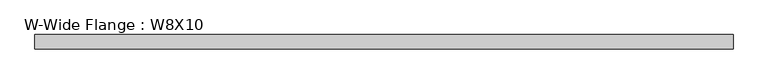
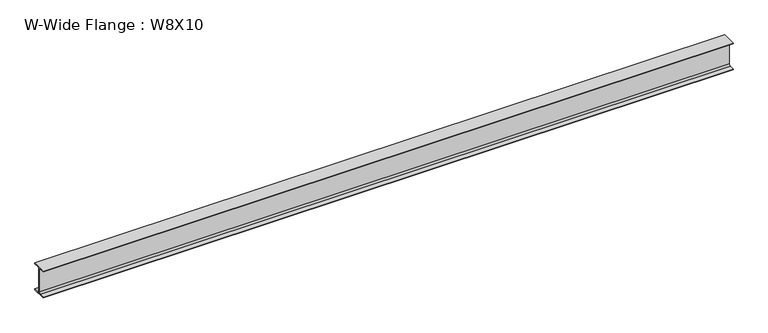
"""IFC4 building model written with IfcOpenShell, lengths in millimetres: beam geometry, W-Wide Flange : W8X10."""

from ifc_helpers import new_model, si_unit, point, frame, frame_2d, origin, place, context, project, spatial, polyline, circle_curve, trimmed, segment, composite_curve, outline, extrude, source, transform, mapped, element, save


def w_wide_flange_w8x10_729b3ca8(model_context):
    return source(origin(), model_context, "Body", "SweptSolid", [
        extrude(outline(composite_curve([segment(polyline([(50.038, -94.996), (50.038, -100.203), (-50.038, -100.203), (-50.038, -94.996), (-14.4145, -94.996)]), True, "CONTINUOUS"), segment(trimmed(circle_curve(frame_2d((-14.4145, -82.7405)), 12.2555), [point((-14.4145, -94.996))], [point((-2.159, -82.7405))], True, "CARTESIAN"), True, "CONTINUOUS"), segment(polyline([(-2.159, -82.7405), (-2.159, 82.7405)]), True, "CONTINUOUS"), segment(trimmed(circle_curve(frame_2d((-14.4145, 82.7405)), 12.2555), [point((-2.159, 82.7405))], [point((-14.4145, 94.996))], True, "CARTESIAN"), True, "CONTINUOUS"), segment(polyline([(-14.4145, 94.996), (-50.038, 94.996), (-50.038, 100.203), (50.038, 100.203), (50.038, 94.996), (14.4145, 94.996)]), True, "CONTINUOUS"), segment(trimmed(circle_curve(frame_2d((14.4145, 82.7405)), 12.2555), [point((14.4145, 94.996))], [point((2.159, 82.7405))], True, "CARTESIAN"), True, "CONTINUOUS"), segment(polyline([(2.159, 82.7405), (2.159, -82.7405)]), True, "CONTINUOUS"), segment(trimmed(circle_curve(frame_2d((14.4145, -82.7405)), 12.2555), [point((2.159, -82.7405))], [point((14.4145, -94.996))], True, "CARTESIAN"), True, "CONTINUOUS"), segment(polyline([(14.4145, -94.996), (50.038, -94.996)]), True, "CONTINUOUS")], self_intersect=False)), frame((-2389.1378906, 0.0, 0.0), z_axis=(1.0, 0.0, 0.0), x_axis=(0.0, 1.0, 0.0)), (0.0, 0.0, 1.0), 4892.6253906),
    ])


if __name__ == "__main__":
    model = new_model("IFC4")
    model_context = context("Model", 3, world=origin())
    ifc_project = project(units=[si_unit("LENGTHUNIT", "METRE", prefix="MILLI")], contexts=[model_context])
    site = spatial("IfcSite", under=ifc_project)
    building = spatial("IfcBuilding", under=site)
    placement = place(None, origin())
    w_wide_flange_w8x10_shape = w_wide_flange_w8x10_729b3ca8(model_context)
    element("IfcBeam", 1, ObjectType="W-Wide Flange : W8X10", at=placement, inside=building, context=model_context, shape_type="MappedRepresentation", body=[
        mapped(w_wide_flange_w8x10_shape, transform((0.0, 0.0, 0.0), x_axis=(1.0, 0.0, 0.0), y_axis=(0.0, 1.0, 0.0), z_axis=(0.0, 0.0, 1.0))),
    ])
    save(model, "model.ifc")
